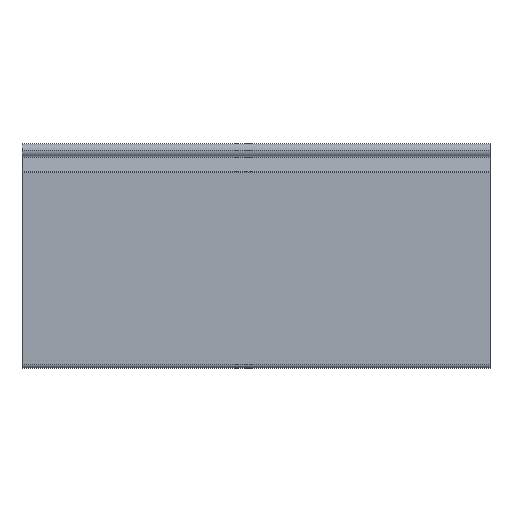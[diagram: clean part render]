
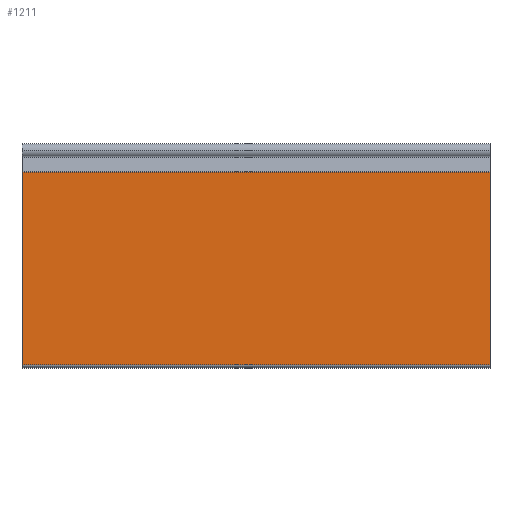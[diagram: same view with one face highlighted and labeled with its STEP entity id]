
A CAD part, top view. The second image highlights one B-rep face of the part: STEP entity #1211.
In plain terms, the highlighted planar face has unit normal (0, 0, 1).
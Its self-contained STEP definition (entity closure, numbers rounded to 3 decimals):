
#17 = CARTESIAN_POINT ( 'NONE',  ( 133., -12.164, 4.05 ) ) ;
#18 = DIRECTION ( 'NONE',  ( -1., 0., 0. ) ) ;
#20 = CARTESIAN_POINT ( 'NONE',  ( 133., -121.663, 4.05 ) ) ;
#21 = DIRECTION ( 'NONE',  ( -1., 0., 0. ) ) ;
#211 = VECTOR ( 'NONE', #850, 1000. ) ;
#216 = LINE ( 'NONE', #844, #211 ) ;
#238 = LINE ( 'NONE', #17, #239 ) ;
#239 = VECTOR ( 'NONE', #18, 1000. ) ;
#240 = LINE ( 'NONE', #20, #241 ) ;
#241 = VECTOR ( 'NONE', #21, 1000. ) ;
#275 = ORIENTED_EDGE ( 'NONE', *, *, #690, .T. ) ;
#276 = ORIENTED_EDGE ( 'NONE', *, *, #702, .F. ) ;
#277 = ORIENTED_EDGE ( 'NONE', *, *, #621, .F. ) ;
#278 = ORIENTED_EDGE ( 'NONE', *, *, #701, .T. ) ;
#321 = VERTEX_POINT ( 'NONE', #402 ) ;
#336 = VERTEX_POINT ( 'NONE', #869 ) ;
#357 = VERTEX_POINT ( 'NONE', #890 ) ;
#367 = VERTEX_POINT ( 'NONE', #900 ) ;
#402 = CARTESIAN_POINT ( 'NONE',  ( -133., -121.663, 4.05 ) ) ;
#433 = AXIS2_PLACEMENT_3D ( 'NONE', #1131, #1137, #1138 ) ;
#542 = CARTESIAN_POINT ( 'NONE',  ( 133., -12.164, 4.05 ) ) ;
#552 = DIRECTION ( 'NONE',  ( 0., -1., 0. ) ) ;
#621 = EDGE_CURVE ( 'NONE', #367, #357, #1066, .T. ) ;
#690 = EDGE_CURVE ( 'NONE', #336, #321, #216, .T. ) ;
#701 = EDGE_CURVE ( 'NONE', #367, #336, #238, .T. ) ;
#702 = EDGE_CURVE ( 'NONE', #357, #321, #240, .T. ) ;
#844 = CARTESIAN_POINT ( 'NONE',  ( -133., -12.164, 4.05 ) ) ;
#850 = DIRECTION ( 'NONE',  ( 0., -1., 0. ) ) ;
#869 = CARTESIAN_POINT ( 'NONE',  ( -133., -12.164, 4.05 ) ) ;
#890 = CARTESIAN_POINT ( 'NONE',  ( 133., -121.663, 4.05 ) ) ;
#900 = CARTESIAN_POINT ( 'NONE',  ( 133., -12.164, 4.05 ) ) ;
#1066 = LINE ( 'NONE', #542, #1068 ) ;
#1068 = VECTOR ( 'NONE', #552, 1000. ) ;
#1128 = PLANE ( 'NONE',  #433 ) ;
#1131 = CARTESIAN_POINT ( 'NONE',  ( 133., -12.164, 4.05 ) ) ;
#1137 = DIRECTION ( 'NONE',  ( 0., 0., -1. ) ) ;
#1138 = DIRECTION ( 'NONE',  ( 0., 1., 0. ) ) ;
#1211 = ADVANCED_FACE ( 'NONE', ( #1315 ), #1128, .F. ) ;
#1251 = EDGE_LOOP ( 'NONE', ( #275, #276, #277, #278 ) ) ;
#1315 = FACE_OUTER_BOUND ( 'NONE', #1251, .T. ) ;
